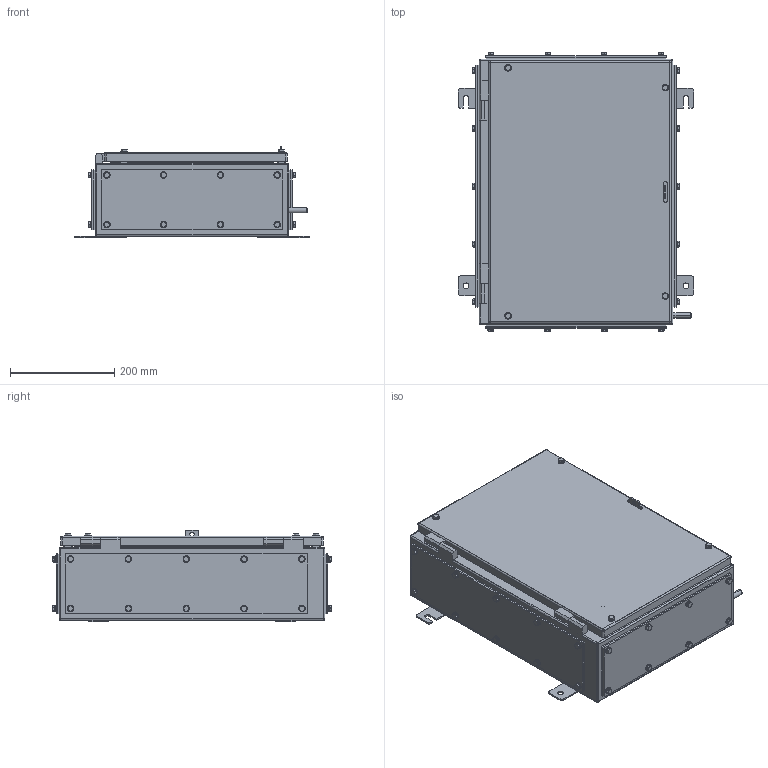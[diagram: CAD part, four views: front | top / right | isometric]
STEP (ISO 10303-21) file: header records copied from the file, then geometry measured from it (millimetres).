
FILE_DESCRIPTION (( 'STEP AP203' ), '1' );
FILE_NAME ('SX4_140_4GP.STEP', '2021-05-20T14:20:12', ( '' ), ( '' ), 'SwSTEP 2.0', 'SolidWorks 2020', '' );
FILE_SCHEMA (( 'CONFIG_CONTROL_DESIGN' ));
Length unit declared in the file: millimetre
Products named in the file (10): hex screw gradec_bsi_BS EN 24018 - M6 x 16-WN; SX4-140 Base Gland plate; SX4_140_4GP; SX4-140 side Gland plate; SX4 Door; SX4-140 side Gasket; plain washer form a_bsi_Bright washer BS 4320 - M6 (Form A); SX4-140 Base Gasket; hex screw gradec_bsi_BS EN 24018 - M6 x 20-WN; SX4_140_4GP Body
Assembly tree (90 placements, depth 2):
  SX4_140_4GP
    SX4 Door
    hex screw gradec_bsi_BS EN 24018 - M6 x 16-WN  x36
    hex screw gradec_bsi_BS EN 24018 - M6 x 20-WN  x4
    plain washer form a_bsi_Bright washer BS 4320 - M6 (Form A)  x40
    SX4_140_4GP Body
    SX4-140 Base Gland plate  x2
    SX4-140 Base Gasket  x2
    SX4-140 side Gasket  x2
    SX4-140 side Gland plate  x2
Bounding box: 452 x 533.95 x 176 mm (x, y, z)
Volume: 2140839.7 mm3; surface area: 1851556.3 mm2
Topology: 90 solids, 90 shells, 2139 faces, 4677 edges, 2826 vertices
Faces by surface type: plane 974, cylinder 789, cone 328, sphere 40, torus 8
Entity records: 25577 total; most frequent: DIRECTION 4291, CARTESIAN_POINT 3821, ORIENTED_EDGE 3482, EDGE_CURVE 1741, AXIS2_PLACEMENT_3D 1712, VERTEX_POINT 1098, EDGE_LOOP 979, LINE 867
